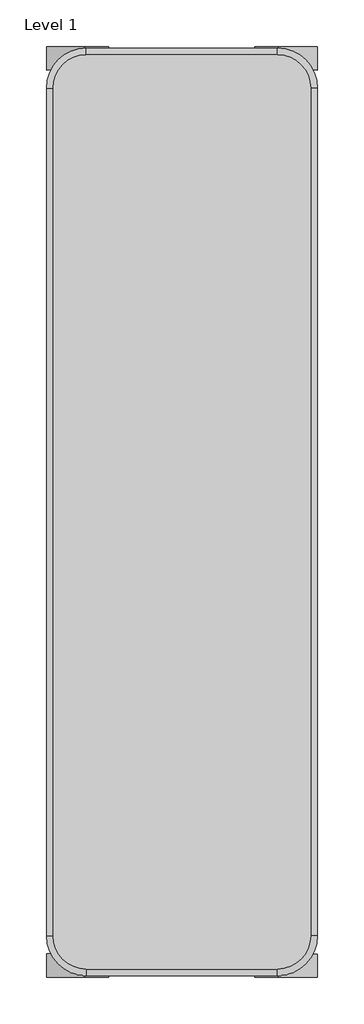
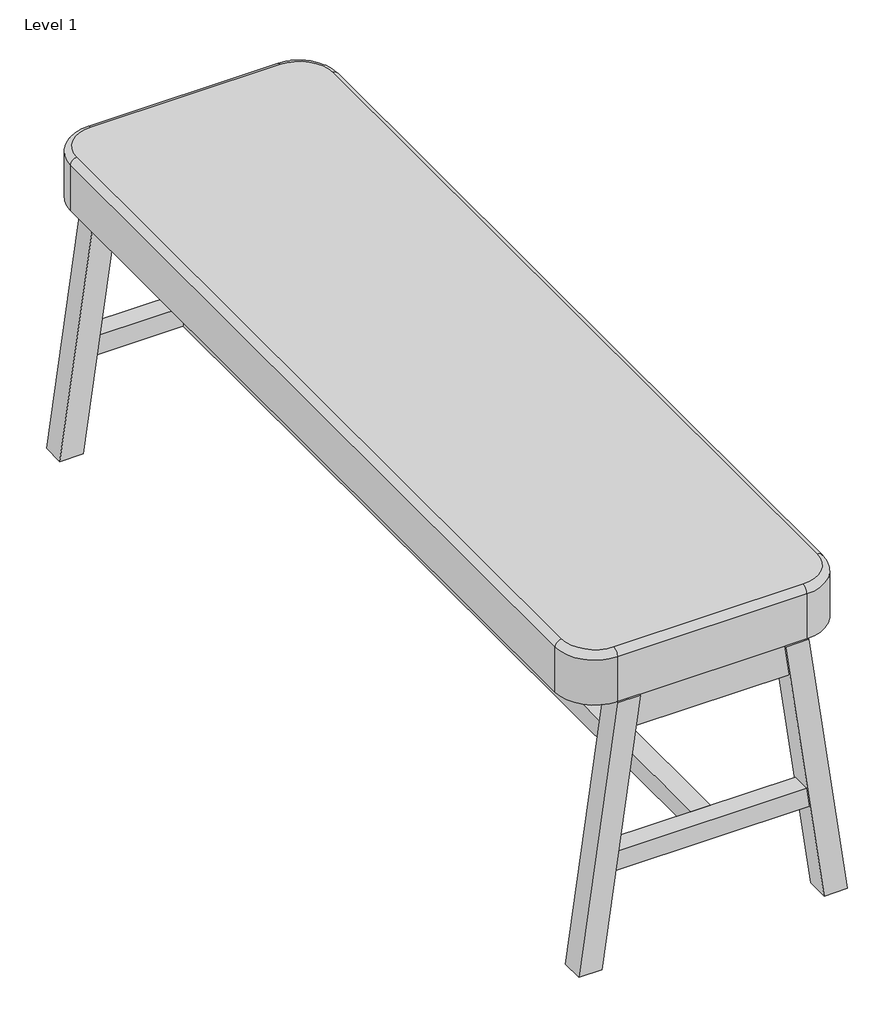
# One storey, incomplete: 1 furniture element.
"""IFC4 building model written with IfcOpenShell, lengths in millimetres."""

import ifcopenshell
import ifcopenshell.guid

model = None  # the IFC model being written
_history = None  # IfcOwnerHistory: only IFC2X3 demands one
_inside = {}  # id of a spatial element -> (the spatial element, [elements in it])
_under = {}  # id of a project, library or spatial element -> (it, [spatial elements below it])
_declared = {}  # id of a project -> (the project, [libraries it declares])
_typed = {}  # id of a type object -> (the type object, [elements of that type])
_made_of = {}  # id of a material, layer set ... -> (it, [elements and type objects made of it])


def new_model(schema):
    """Start an empty IFC model of exactly this schema.

    Asked for "IFC4X3", IfcOpenShell would pick the latest addendum, in which some entities
    have other attributes; the version numbers below select the first issue.
    IFC2X3 requires an IfcOwnerHistory on every rooted entity: one is made here for all.
    """
    global model, _history
    if schema == "IFC4X3":
        model = ifcopenshell.file(schema_version=(4, 3, 0, 0))
    else:
        model = ifcopenshell.file(schema=schema)
    _inside.clear()
    _under.clear()
    _declared.clear()
    _typed.clear()
    _made_of.clear()
    _history = None
    if model.schema == "IFC2X3":
        org = make("IfcOrganization", Name="unknown")
        user = make(
            "IfcPersonAndOrganization",
            ThePerson=make("IfcPerson", FamilyName="unknown"),
            TheOrganization=org,
        )
        app = make(
            "IfcApplication",
            ApplicationDeveloper=org,
            Version="unknown",
            ApplicationFullName="unknown",
            ApplicationIdentifier="unknown",
        )
        _history = make(
            "IfcOwnerHistory",
            OwningUser=user,
            OwningApplication=app,
            ChangeAction="ADDED",
            CreationDate=0,
        )
    return model


def make(cls, **values):
    """One entity of the class cls with the attributes given. An attribute that is None is left unset."""
    return model.create_entity(
        cls, **{name: value for name, value in values.items() if value is not None}
    )


def rooted(cls, **values):
    """An entity with a GlobalId (a new one), such as an element, a storey or a relation."""
    return make(cls, GlobalId=ifcopenshell.guid.new(), OwnerHistory=_history, **values)


def si_unit(unit_type, name, prefix=None):
    """IfcSIUnit, for example si_unit("LENGTHUNIT", "METRE", prefix="MILLI")."""
    return make("IfcSIUnit", UnitType=unit_type, Prefix=prefix, Name=name)


def assignment(units):
    """IfcUnitAssignment: the units of a project."""
    return None if units is None else make("IfcUnitAssignment", Units=units)


def point(xyz):
    """IfcCartesianPoint."""
    return None if xyz is None else make("IfcCartesianPoint", Coordinates=xyz)


def direction(xyz):
    """IfcDirection."""
    return None if xyz is None else make("IfcDirection", DirectionRatios=xyz)


def frame(location, z_axis=None, x_axis=None):
    """IfcAxis2Placement3D, a coordinate frame: its origin and axes. An axis left out is left unset."""
    return make(
        "IfcAxis2Placement3D",
        Location=point(location),
        Axis=direction(z_axis),
        RefDirection=direction(x_axis),
    )


def origin():
    """The frame at (0, 0, 0) with its axes left unset."""
    return frame((0.0, 0.0, 0.0))


def place(relative_to, where):
    """IfcLocalPlacement: puts the frame where relative to a parent placement (None: the world)."""
    return make(
        "IfcLocalPlacement", PlacementRelTo=relative_to, RelativePlacement=where
    )


def context(
    kind, dimensions, precision=None, world=None, true_north=None, identifier=None
):
    """IfcGeometricRepresentationContext, for example the 3D "Model" context."""
    return make(
        "IfcGeometricRepresentationContext",
        ContextIdentifier=identifier,
        ContextType=kind,
        CoordinateSpaceDimension=dimensions,
        Precision=precision,
        WorldCoordinateSystem=world,
        TrueNorth=true_north,
    )


def project(units=None, contexts=None):
    """IfcProject with its units and contexts."""
    return rooted(
        "IfcProject",
        Name="project",
        RepresentationContexts=contexts,
        UnitsInContext=assignment(units),
    )


def spatial(cls, under=None, at=None, **own):
    """A site, building, storey or space (cls), placed at a placement, below another one or the project."""
    s = rooted(cls, ObjectPlacement=at, **own)
    if under is not None:
        _under.setdefault(under.id(), (under, []))[1].append(s)
    return s


def polyline(points):
    """IfcPolyline through the points."""
    return make("IfcPolyline", Points=[point(p) for p in points])


def circle_curve(where, radius):
    """IfcCircle in the frame where."""
    return make("IfcCircle", Position=where, Radius=radius)


def ellipse_curve(where, semi_axis1, semi_axis2):
    """IfcEllipse in the frame where."""
    return make(
        "IfcEllipse", Position=where, SemiAxis1=semi_axis1, SemiAxis2=semi_axis2
    )


def trimmed(basis, trim1, trim2, sense, master):
    """IfcTrimmedCurve: the piece of a basis curve between two trims."""
    return make(
        "IfcTrimmedCurve",
        BasisCurve=basis,
        Trim1=trim1,
        Trim2=trim2,
        SenseAgreement=sense,
        MasterRepresentation=master,
    )


def outline(outer, holes=None, kind="AREA"):
    """IfcArbitraryClosedProfileDef: a profile drawn as a closed curve; with holes, ...WithVoids."""
    if holes is None:
        return make("IfcArbitraryClosedProfileDef", ProfileType=kind, OuterCurve=outer)
    return make(
        "IfcArbitraryProfileDefWithVoids",
        ProfileType=kind,
        OuterCurve=outer,
        InnerCurves=holes,
    )


def extrude(swept, where, along, depth):
    """IfcExtrudedAreaSolid: the profile swept, set in the frame where, extruded along a direction by depth."""
    return make(
        "IfcExtrudedAreaSolid",
        SweptArea=swept,
        Position=where,
        ExtrudedDirection=direction(along),
        Depth=depth,
    )


def faces_of(points, faces, orient=None, outer=None):
    """IfcFace entities. A face is a list of loops; a loop is a list of indices into points, from 0.

    orient and outer hold one flag for each loop. By default every Orientation is true, the
    first loop of a face is its IfcFaceOuterBound and the others are IfcFaceBound.
    """
    made = []
    for i, loops in enumerate(faces):
        bounds = []
        for j, loop in enumerate(loops):
            is_outer = j == 0 if outer is None else outer[i][j]
            bounds.append(
                make(
                    "IfcFaceOuterBound" if is_outer else "IfcFaceBound",
                    Bound=make("IfcPolyLoop", Polygon=[points[k] for k in loop]),
                    Orientation=True if orient is None else orient[i][j],
                )
            )
        made.append(make("IfcFace", Bounds=bounds))
    return made


def faceted_brep(points, faces, orient=None, outer=None, voids=None):
    """IfcFacetedBrep: a solid bounded by flat faces; with voids (closed shells), ...WithVoids."""
    shared = [point(p) for p in points]
    hull = make("IfcClosedShell", CfsFaces=faces_of(shared, faces, orient, outer))
    if voids is None:
        return make("IfcFacetedBrep", Outer=hull)
    return make(
        "IfcFacetedBrepWithVoids",
        Outer=hull,
        Voids=[
            make(cls, CfsFaces=faces_of(shared, fs, o, b)) for cls, fs, o, b in voids
        ],
    )


def shape(context_of_items, identifier, shape_type, items):
    """IfcShapeRepresentation: the items that make up one representation, for example the "Body"."""
    return make(
        "IfcShapeRepresentation",
        ContextOfItems=context_of_items,
        RepresentationIdentifier=identifier,
        RepresentationType=shape_type,
        Items=items,
    )


def source(mapping_origin, context_of_items, identifier, shape_type, items):
    """IfcRepresentationMap: a shape defined once, which mapped items show again and again."""
    return make(
        "IfcRepresentationMap",
        MappingOrigin=mapping_origin,
        MappedRepresentation=shape(context_of_items, identifier, shape_type, items),
    )


def transform(
    local_origin,
    x_axis=None,
    y_axis=None,
    z_axis=None,
    scale=None,
    scale2=None,
    scale3=None,
    uniform=True,
):
    """IfcCartesianTransformationOperator3D, or its non-uniform kind. x_axis, y_axis, z_axis: its Axis1, 2, 3."""
    if uniform:
        return make(
            "IfcCartesianTransformationOperator3D",
            Axis1=direction(x_axis),
            Axis2=direction(y_axis),
            LocalOrigin=point(local_origin),
            Scale=scale,
            Axis3=direction(z_axis),
        )
    return make(
        "IfcCartesianTransformationOperator3DnonUniform",
        Axis1=direction(x_axis),
        Axis2=direction(y_axis),
        LocalOrigin=point(local_origin),
        Scale=scale,
        Axis3=direction(z_axis),
        Scale2=scale2,
        Scale3=scale3,
    )


def mapped(mapping_source, mapping_target):
    """IfcMappedItem: shows the shape of a source again, moved by a transform."""
    return make(
        "IfcMappedItem", MappingSource=mapping_source, MappingTarget=mapping_target
    )


def made_of(thing, what):
    """Note that an element or type object is made of a material, layer set ...; save() writes the relation."""
    if what is not None:
        _made_of.setdefault(what.id(), (what, []))[1].append(thing)
    return thing


def element(
    cls,
    number,
    at=None,
    inside=None,
    cuts=None,
    type_object=None,
    material=None,
    context=None,
    identifier="Body",
    shape_type=None,
    held_by="IfcProductDefinitionShape",
    body=None,
    shapes=None,
    **own,
):
    """One element of the class cls, such as IfcWall. Its Tag is "e" and its number.

    at: its placement. inside: the storey or other place that contains it. cuts: it is an
    opening in that element (IfcRelVoidsElement). A single representation is given by context,
    identifier, shape_type and body (its items); several are given by shapes. held_by: the class
    of the entity that holds the representations. save() writes the other relations.
    """
    e = rooted(cls, Tag="e%d" % number, ObjectPlacement=at, **own)
    if body is not None:
        shapes = [shape(context, identifier, shape_type, body)]
    if shapes is not None:
        e.Representation = make(held_by, Representations=shapes)
    if inside is not None:
        _inside.setdefault(inside.id(), (inside, []))[1].append(e)
    if cuts is not None:
        rooted(
            "IfcRelVoidsElement", RelatingBuildingElement=cuts, RelatedOpeningElement=e
        )
    if type_object is not None:
        _typed.setdefault(type_object.id(), (type_object, []))[1].append(e)
    return made_of(e, material)


def aggregate(whole, parts):
    """IfcRelAggregates: a whole, such as a stair, and the parts it consists of."""
    return rooted("IfcRelAggregates", RelatingObject=whole, RelatedObjects=parts)


def save(model, path):
    """Write the relations noted so far, then the file.

    IfcRelAggregates (storeys below a building ...), IfcRelContainedInSpatialStructure (elements
    in a storey), IfcRelDefinesByType, IfcRelAssociatesMaterial and IfcRelDeclares: one each for
    every whole, place, type object, material and project.
    """
    for whole, parts in _under.values():
        aggregate(whole, parts)
    for where, things in _inside.values():
        rooted(
            "IfcRelContainedInSpatialStructure",
            RelatedElements=things,
            RelatingStructure=where,
        )
    for kind, things in _typed.values():
        rooted("IfcRelDefinesByType", RelatedObjects=things, RelatingType=kind)
    for what, things in _made_of.values():
        rooted("IfcRelAssociatesMaterial", RelatedObjects=things, RelatingMaterial=what)
    for by, libraries in _declared.values():
        rooted("IfcRelDeclares", RelatingContext=by, RelatedDefinitions=libraries)
    model.write(path)


def plane_surface(at):
    """IfcPlane: the flat surface through the origin of the frame at, square to its z axis."""
    return make("IfcPlane", Position=at)


def cylinder_surface(at, radius):
    """IfcCylindricalSurface: all points at the distance radius from the z axis of the frame at."""
    return make("IfcCylindricalSurface", Position=at, Radius=radius)


def revolved_surface(curve, axis_point, axis_direction):
    """IfcSurfaceOfRevolution: the curve turned about the line through axis_point along axis_direction."""
    return make(
        "IfcSurfaceOfRevolution",
        SweptCurve=make("IfcArbitraryOpenProfileDef", ProfileType="CURVE", Curve=curve),
        AxisPosition=make("IfcAxis1Placement", Location=point(axis_point), Axis=direction(axis_direction)),
    )


def advanced_brep(points, edges, surfaces, faces):
    """IfcAdvancedBrep: a solid bounded by faces that lie on surfaces and meet in shared edges.

    An edge is (start, end): straight between two places in points (the first is 0);
    or (start, end, curve); or (start, end, curve, False) where it runs against its curve.
    A face is (place in surfaces, loops), or (place, loops, False) where it looks against
    its surface's normal. A loop lists edges by number (the first is 1), with a minus sign
    where the edge is run from its end to its start. The first loop is the outer one.
    """
    corners = [point(p) for p in points]
    vertices = [make("IfcVertexPoint", VertexGeometry=c) for c in corners]
    made = []
    for start, end, *more in edges:
        made.append(
            make(
                "IfcEdgeCurve",
                EdgeStart=vertices[start],
                EdgeEnd=vertices[end],
                EdgeGeometry=more[0] if more else make("IfcPolyline", Points=[corners[start], corners[end]]),
                SameSense=more[1] if len(more) > 1 else True,
            )
        )
    hull = []
    for where, loops, *sense in faces:
        bounds = []
        for j, loop in enumerate(loops):
            ring = [make("IfcOrientedEdge", EdgeElement=made[abs(k) - 1], Orientation=k > 0) for k in loop]
            bounds.append(
                make(
                    "IfcFaceOuterBound" if j == 0 else "IfcFaceBound",
                    Bound=make("IfcEdgeLoop", EdgeList=ring),
                    Orientation=True,
                )
            )
        hull.append(make("IfcAdvancedFace", Bounds=bounds, FaceSurface=surfaces[where], SameSense=sense[0] if sense else True))
    return make("IfcAdvancedBrep", Outer=make("IfcClosedShell", CfsFaces=hull))


def a_series_range_small_table_a_series_range_small_table_46e69600(model_context):
    return source(origin(), model_context, "Body", "SolidModel", [
        faceted_brep([(-145.5, 700.1, 420.0), (-145.5, 664.9, 420.0), (-110.3, 664.9, 420.0), (-110.3, 700.1, 420.0), (-204.0, 700.1, 0.0), (-168.8, 700.1, 0.0), (-168.8, 664.9, 0.0), (-204.0, 664.9, 0.0)], [[[0, 1, 2, 3]], [[4, 5, 6, 7]], [[1, 0, 4, 7]], [[2, 1, 7, 6]], [[3, 2, 6, 5]], [[0, 3, 5, 4]]]),
        faceted_brep([(168.8, 700.0, 0.0), (204.0, 700.0, 0.0), (204.0, 664.8, 0.0), (168.8, 664.8, 0.0), (110.3, 664.9, 420.0), (110.3, 700.1, 420.0), (145.5, 664.9, 420.0), (145.5, 700.1, 420.0)], [[[0, 1, 2, 3]], [[4, 5, 0, 3]], [[6, 4, 3, 2]], [[7, 6, 2, 1]], [[5, 7, 1, 0]], [[5, 4, 6, 7]]]),
        faceted_brep([(-145.5, -664.9, 420.0), (-145.5, -700.1, 420.0), (-110.3, -700.1, 420.0), (-110.3, -664.9, 420.0), (-204.0, -664.9, 0.0), (-168.8, -664.9, 0.0), (-168.8, -700.1, 0.0), (-204.0, -700.1, 0.0)], [[[0, 1, 2, 3]], [[4, 5, 6, 7]], [[1, 0, 4, 7]], [[2, 1, 7, 6]], [[3, 2, 6, 5]], [[0, 3, 5, 4]]]),
        faceted_brep([(168.8, -665.0, 0.0), (204.0, -665.0, 0.0), (204.0, -700.2, 0.0), (168.8, -700.2, 0.0), (110.3, -700.1, 420.0), (110.3, -664.9, 420.0), (145.5, -700.1, 420.0), (145.5, -664.9, 420.0)], [[[0, 1, 2, 3]], [[4, 5, 0, 3]], [[6, 4, 3, 2]], [[7, 6, 2, 1]], [[5, 7, 1, 0]], [[5, 4, 6, 7]]]),
        extrude(outline(polyline([(15.0, -667.4), (-15.0, -667.4), (-15.0, 667.4), (15.0, 667.4), (15.0, -667.4)])), frame((0.0, 0.0, 150.0), z_axis=(0.0, 0.0, 1.0), x_axis=(1.0, 0.0, 0.0)), (0.0, 0.0, 1.0), 30.0),
        advanced_brep(
        [(143.9728494, -687.6, 502.0), (194.0271506, -637.5456988, 502.0), (194.0271506, 637.5456988, 502.0), (143.9728494, 687.6, 502.0), (-143.9728494, 687.6, 502.0), (-193.9728494, 637.6, 502.0), (-193.9728494, -637.6, 502.0), (-143.9728494, -687.6, 502.0), (-203.9728494, -637.6, 420.0), (-203.9728494, 637.6, 420.0), (-143.9728494, 697.6, 420.0), (143.9728494, 697.6, 420.0), (204.0271506, 637.5456988, 420.0), (204.0271506, -637.5456988, 420.0), (143.9728494, -697.6, 420.0), (-143.9728494, -697.6, 420.0), (-143.9728494, -697.6, 492.0000136), (-203.9728494, -637.6, 492.0), (143.9728494, -697.6, 492.0000137), (204.0271506, -637.5456988, 492.0000137), (204.0271506, 637.5456988, 492.0), (143.9728494, 697.6, 492.0000136), (-143.9728494, 697.6, 492.0), (-203.9728494, 637.6, 492.0000137)],
        [
            (0, 1, circle_curve(frame((143.9728494, -637.5456988, 502.0), z_axis=(0.0, 0.0, 1.0), x_axis=(0.0, -1.0, 0.0)), 50.0543012)),
            (1, 2),
            (2, 3, circle_curve(frame((143.9728494, 637.5456988, 502.0), z_axis=(0.0, 0.0, 1.0), x_axis=(1.0, 0.0, 0.0)), 50.0543012)),
            (3, 4),
            (4, 5, circle_curve(frame((-143.9728494, 637.6, 502.0), z_axis=(0.0, 0.0, 1.0), x_axis=(0.0, 1.0, 0.0)), 50.0)),
            (5, 6),
            (6, 7, circle_curve(frame((-143.9728494, -637.6, 502.0), z_axis=(0.0, 0.0, 1.0), x_axis=(-1.0, 0.0, 0.0)), 50.0)),
            (7, 0),
            (8, 9),
            (9, 10, circle_curve(frame((-143.9728494, 637.6, 420.0), z_axis=(0.0, 0.0, -1.0), x_axis=(-1.0, 0.0, 0.0)), 60.0)),
            (10, 11),
            (11, 12, circle_curve(frame((143.9728494, 637.5456988, 420.0), z_axis=(0.0, 0.0, -1.0), x_axis=(-1.0, 0.0, 0.0)), 60.0543012)),
            (12, 13),
            (13, 14, circle_curve(frame((143.9728494, -637.5456988, 420.0), z_axis=(0.0, 0.0, -1.0), x_axis=(-1.0, 0.0, 0.0)), 60.0543012)),
            (14, 15),
            (15, 8, circle_curve(frame((-143.9728494, -637.6, 420.0), z_axis=(0.0, 0.0, -1.0), x_axis=(-1.0, 0.0, 0.0)), 60.0)),
            (15, 16),
            (16, 17, circle_curve(frame((-143.9728494, -637.6, 492.0), z_axis=(0.0, 0.0, -1.0), x_axis=(-1.0, 0.0, 0.0)), 60.0)),
            (17, 8),
            (14, 18),
            (18, 16),
            (13, 19),
            (19, 18, circle_curve(frame((143.9728494, -637.5456988, 492.0), z_axis=(0.0, 0.0, -1.0), x_axis=(-1.0, 0.0, 0.0)), 60.0543012)),
            (12, 20),
            (20, 19),
            (11, 21),
            (21, 20, circle_curve(frame((143.9728494, 637.5456988, 492.0), z_axis=(0.0, 0.0, -1.0), x_axis=(-1.0, 0.0, 0.0)), 60.0543012)),
            (10, 22),
            (22, 21),
            (9, 23),
            (23, 22, circle_curve(frame((-143.9728494, 637.6, 492.0), z_axis=(0.0, 0.0, -1.0), x_axis=(-1.0, 0.0, 0.0)), 60.0)),
            (17, 23),
            (19, 1, circle_curve(frame((194.0271506, -637.5456988, 492.0), z_axis=(0.0, -1.0, 0.0), x_axis=(0.0, 0.0, -1.0)), 10.0)),
            (0, 18, circle_curve(frame((143.9728494, -687.6, 492.0), z_axis=(1.0, 0.0, 0.0), x_axis=(0.0, 0.0, -1.0)), 10.0)),
            (20, 2, circle_curve(frame((194.0271506, 637.5456988, 492.0), z_axis=(0.0, -1.0, 0.0), x_axis=(0.0, 0.0, -1.0)), 10.0)),
            (21, 3, circle_curve(frame((143.9728494, 687.6, 492.0), z_axis=(1.0, 0.0, 0.0), x_axis=(0.0, 0.0, -1.0)), 10.0)),
            (22, 4, circle_curve(frame((-143.9728494, 687.6, 492.0), z_axis=(1.0, 0.0, 0.0), x_axis=(0.0, 0.0, -1.0)), 10.0)),
            (23, 5, circle_curve(frame((-193.9728494, 637.6, 492.0), z_axis=(0.0, 1.0, 0.0), x_axis=(0.0, 0.0, -1.0)), 10.0)),
            (17, 6, circle_curve(frame((-193.9728494, -637.6, 492.0), z_axis=(0.0, 1.0, 0.0), x_axis=(0.0, 0.0, -1.0)), 10.0)),
            (16, 7, circle_curve(frame((-143.9728494, -687.6, 492.0), z_axis=(-1.0, 0.0, 0.0), x_axis=(0.0, 0.0, -1.0)), 10.0)),
        ],
        [
            plane_surface(frame((-203.9728494, -637.6, 502.0), z_axis=(0.0, 0.0, 1.0), x_axis=(0.0, -1.0, 0.0))),
            plane_surface(frame((-203.9728494, -637.6, 420.0), z_axis=(0.0, 0.0, -1.0), x_axis=(0.0, 1.0, 0.0))),
            cylinder_surface(frame((-143.9728494, -637.6, 420.0), z_axis=(0.0, 0.0, 1.0), x_axis=(-1.0, 0.0, 0.0)), 60.0),
            plane_surface(frame((-143.9728494, -697.6, 502.0), z_axis=(0.0, -1.0, 0.0), x_axis=(0.0, 0.0, -1.0))),
            cylinder_surface(frame((143.9728494, -637.5456988, 420.0), z_axis=(0.0, 0.0, 1.0), x_axis=(-1.0, 0.0, 0.0)), 60.0543012),
            plane_surface(frame((204.0271506, -637.5456988, 502.0), z_axis=(1.0, 0.0, 0.0), x_axis=(0.0, 0.0, -1.0))),
            cylinder_surface(frame((143.9728494, 637.5456988, 420.0), z_axis=(0.0, 0.0, 1.0), x_axis=(-1.0, 0.0, 0.0)), 60.0543012),
            plane_surface(frame((143.9728494, 697.6, 502.0), z_axis=(0.0, 1.0, 0.0), x_axis=(0.0, 0.0, -1.0))),
            cylinder_surface(frame((-143.9728494, 637.6, 420.0), z_axis=(0.0, 0.0, 1.0), x_axis=(-1.0, 0.0, 0.0)), 60.0),
            plane_surface(frame((-203.9728494, 637.6, 502.0), z_axis=(-1.0, 0.0, 0.0), x_axis=(0.0, 0.0, -1.0))),
            revolved_surface(trimmed(ellipse_curve(frame((143.9728494, -687.6, 492.0), z_axis=(-1.0, 0.0, 0.0), x_axis=(0.0, 0.0, -1.0)), 10.0, 10.0), [point((143.9728494, -697.6, 492.0))], [point((143.9728494, -687.6, 502.0))], True, "CARTESIAN"), (143.9728494, -637.5456988, 502.0), (0.0, 0.0, 1.0)),
            cylinder_surface(frame((194.0271506, -637.5456988, 492.0), z_axis=(0.0, 1.0, 0.0), x_axis=(0.0, 0.0, -1.0)), 10.0),
            revolved_surface(trimmed(ellipse_curve(frame((194.0271506, 637.5456988, 492.0), z_axis=(0.0, -1.0, 0.0), x_axis=(0.0, 0.0, -1.0)), 10.0, 10.0), [point((204.0271506, 637.5456988, 492.0))], [point((194.0271506, 637.5456988, 502.0))], True, "CARTESIAN"), (143.9728494, 637.5456988, 502.0), (0.0, 0.0, 1.0)),
            cylinder_surface(frame((143.9728494, 687.6, 492.0), z_axis=(-1.0, 0.0, 0.0), x_axis=(0.0, 0.0, -1.0)), 10.0),
            revolved_surface(trimmed(ellipse_curve(frame((-143.9728494, 687.6, 492.0), z_axis=(1.0, 0.0, 0.0), x_axis=(0.0, 0.0, -1.0)), 10.0, 10.0), [point((-143.9728494, 697.6, 492.0))], [point((-143.9728494, 687.6, 502.0))], True, "CARTESIAN"), (-143.9728494, 637.6, 502.0), (0.0, 0.0, 1.0)),
            cylinder_surface(frame((-193.9728494, 637.6, 492.0), z_axis=(0.0, -1.0, 0.0), x_axis=(0.0, 0.0, -1.0)), 10.0),
            revolved_surface(trimmed(ellipse_curve(frame((-193.9728494, -637.6, 492.0), z_axis=(0.0, 1.0, 0.0), x_axis=(0.0, 0.0, -1.0)), 10.0, 10.0), [point((-203.9728494, -637.6, 492.0))], [point((-193.9728494, -637.6, 502.0))], True, "CARTESIAN"), (-143.9728494, -637.6, 502.0), (0.0, 0.0, 1.0)),
            cylinder_surface(frame((-143.9728494, -687.6, 492.0), z_axis=(1.0, 0.0, 0.0), x_axis=(0.0, 0.0, -1.0)), 10.0),
        ],
        [
            (0, [[1, 2, 3, 4, 5, 6, 7, 8]]),
            (1, [[9, 10, 11, 12, 13, 14, 15, 16]]),
            (2, [[-16, 17, 18, 19]]),
            (3, [[-15, 20, 21, -17]]),
            (4, [[-14, 22, 23, -20]]),
            (5, [[-13, 24, 25, -22]]),
            (6, [[-12, 26, 27, -24]]),
            (7, [[-11, 28, 29, -26]]),
            (8, [[-10, 30, 31, -28]]),
            (9, [[-9, -19, 32, -30]]),
            (10, [[33, -1, 34, -23]]),
            (11, [[-33, -25, 35, -2]]),
            (12, [[-35, -27, 36, -3]]),
            (13, [[-36, -29, 37, -4]]),
            (14, [[-37, -31, 38, -5]]),
            (15, [[-38, -32, 39, -6]]),
            (16, [[-39, -18, 40, -7]]),
            (17, [[-34, -8, -40, -21]]),
        ],
    ),
        extrude(outline(polyline([(83.1243369, -636.8490191), (83.1243369, -667.4), (-84.3743369, -667.4), (-84.3743369, -636.8490191), (83.1243369, -636.8490191)])), frame((0.0, 0.0, 389.5), z_axis=(0.0, 0.0, 1.0), x_axis=(1.0, 0.0, 0.0)), (0.0, 0.0, 1.0), 13.0),
        extrude(outline(polyline([(83.1243369, 667.4), (83.1243369, 632.1509809), (-84.3743369, 632.1509809), (-84.3743369, 667.4), (83.1243369, 667.4)])), frame((0.0, 0.0, 389.5), z_axis=(0.0, 0.0, 1.0), x_axis=(1.0, 0.0, 0.0)), (0.0, 0.0, 1.0), 13.0),
        extrude(outline(polyline([(69.9993369, 12.6509809), (69.9993369, -17.3490191), (-69.9993369, -17.3490191), (-69.9993369, 12.6509809), (69.9993369, 12.6509809)])), frame((0.0, 0.0, 372.0), z_axis=(0.0, 0.0, 1.0), x_axis=(1.0, 0.0, 0.0)), (0.0, 0.0, 1.0), 48.0),
        extrude(outline(polyline([(-69.9993369, -667.4), (-106.9993369, -667.4), (-106.9993369, 667.4), (-69.9993369, 667.4), (-69.9993369, -667.4)])), frame((0.0, 0.0, 372.0), z_axis=(0.0, 0.0, 1.0), x_axis=(1.0, 0.0, 0.0)), (0.0, 0.0, 1.0), 48.0),
        extrude(outline(polyline([(106.9993369, -667.4), (69.9993369, -667.4), (69.9993369, 667.4), (106.9993369, 667.4), (106.9993369, -667.4)])), frame((0.0, 0.0, 372.0), z_axis=(0.0, 0.0, 1.0), x_axis=(1.0, 0.0, 0.0)), (0.0, 0.0, 1.0), 48.0),
        extrude(outline(polyline([(180.0, 143.7285714), (180.0, -143.7285714), (150.0, -147.9071429), (150.0, 147.9071429), (180.0, 143.7285714)])), frame((0.0, -697.6, 0.0), z_axis=(0.0, 1.0, 0.0), x_axis=(0.0, 0.0, 1.0)), (0.0, 0.0, 1.0), 30.2),
        extrude(outline(polyline([(180.0, 143.7285714), (180.0, -143.7285714), (150.0, -147.9071429), (150.0, 147.9071429), (180.0, 143.7285714)])), frame((0.0, 667.4, 0.0), z_axis=(0.0, 1.0, 0.0), x_axis=(0.0, 0.0, 1.0)), (0.0, 0.0, 1.0), 30.2),
        extrude(outline(polyline([(420.0, 110.3), (420.0, -110.3), (372.0, -116.9857143), (372.0, 116.9857143), (420.0, 110.3)])), frame((0.0, 667.4, 0.0), z_axis=(0.0, 1.0, 0.0), x_axis=(0.0, 0.0, 1.0)), (0.0, 0.0, 1.0), 30.2),
        extrude(outline(polyline([(420.0, 110.3), (420.0, -110.3), (372.0, -116.9857143), (372.0, 116.9857143), (420.0, 110.3)])), frame((0.0, -697.6, 0.0), z_axis=(0.0, 1.0, 0.0), x_axis=(0.0, 0.0, 1.0)), (0.0, 0.0, 1.0), 30.2),
    ])


model = new_model("IFC4")

# Units and contexts
model_context = context("Model", 3, world=origin())
ifc_project = project(units=[si_unit("LENGTHUNIT", "METRE", prefix="MILLI")], contexts=[model_context])

# Site, building, storey
site = spatial("IfcSite", under=ifc_project)
building = spatial("IfcBuilding", under=site)
storey = spatial("IfcBuildingStorey", under=building, Name="Level 1", Elevation=0.0)

# Furniture
placement = place(None, origin())
a_series_range_small_table_a_series_range_small_table_shape = a_series_range_small_table_a_series_range_small_table_46e69600(model_context)
element("IfcFurniture", 1, ObjectType="A Series Range Small Table : A Series Range Small Table", at=placement, inside=storey, context=model_context, shape_type="MappedRepresentation", body=[
    mapped(a_series_range_small_table_a_series_range_small_table_shape, transform((-2236.8454685, 342.7653858, 0.0), x_axis=(1.0, 0.0, 0.0), y_axis=(0.0, 1.0, 0.0), z_axis=(0.0, 0.0, 1.0))),
])

save(model, "model.ifc")
